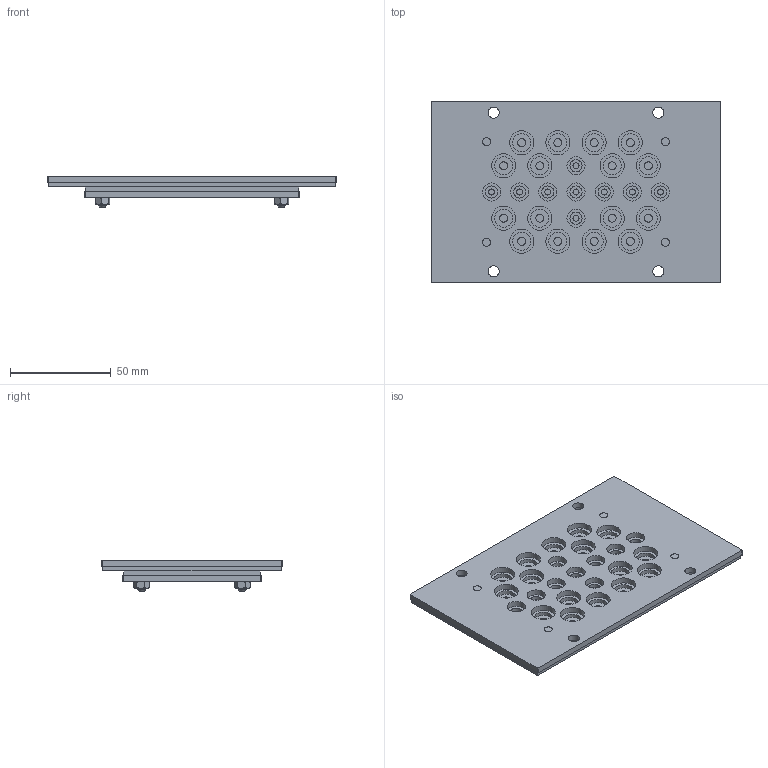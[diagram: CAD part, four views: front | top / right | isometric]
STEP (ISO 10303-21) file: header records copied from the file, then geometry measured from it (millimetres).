
FILE_DESCRIPTION(/* description */ ('Unknown'),/* implementation_level */ '2;1');
FILE_NAME(/* name */ 'KDP-S 90_25 Alu',/* time_stamp */ '2022-06-02T10:49:07+02:00',/* author */ ('Unknown'),/* organization */ ('Unknown'),/* preprocessor_version */ 'ST-DEVELOPER v16.7',/* originating_system */ 'Solid Edge',/* authorisation */ 'Unknown');
FILE_SCHEMA (('AUTOMOTIVE_DESIGN {1 0 10303 214 3 1 1}'));
Length unit declared in the file: millimetre
Products named in the file (8): KDP-S 90_25 Alu; KDP-A 90_25 EPDM; KDP-V 90_25 NBR; KDP-M 90_25 Alu_FLP; Einpressgewindebolzen PEM FHLS-M4-15 ZI ; 6kt- Mutter M4x 0.8d V4; KDP-M 90_25 Alu_ADP
Assembly tree (13 placements, depth 3):
  KDP-S 90_25 Alu
    KDP-A 90_25 EPDM
    KDP-V 90_25 NBR
    KDP-M 90_25 Alu_FLP
      KDP-M 90_25 Alu_FLP
      Einpressgewindebolzen PEM FHLS-M4-15 ZI   x4
    6kt- Mutter M4x 0.8d V4  x4
    KDP-M 90_25 Alu_ADP
Bounding box: 144 x 90 x 15 mm (x, y, z)
Volume: 85908.3 mm3; surface area: 80761.3 mm2
Topology: 12 solids, 12 shells, 291 faces, 749 edges, 532 vertices
Faces by surface type: cylinder 165, plane 114, torus 8, cone 4
Full cylindrical faces by diameter (mm): 3 x18, 3.242 x4, 4 x40, 4.8 x4, 5.5 x16, 6 x9, 9 x34, 12 x32
Entity records: 7081 total; most frequent: DIRECTION 1224, CARTESIAN_POINT 1164, ORIENTED_EDGE 790, EDGE_LOOP 650, FACE_BOUND 650, AXIS2_PLACEMENT_3D 581, EDGE_CURVE 395, VERTEX_POINT 365
